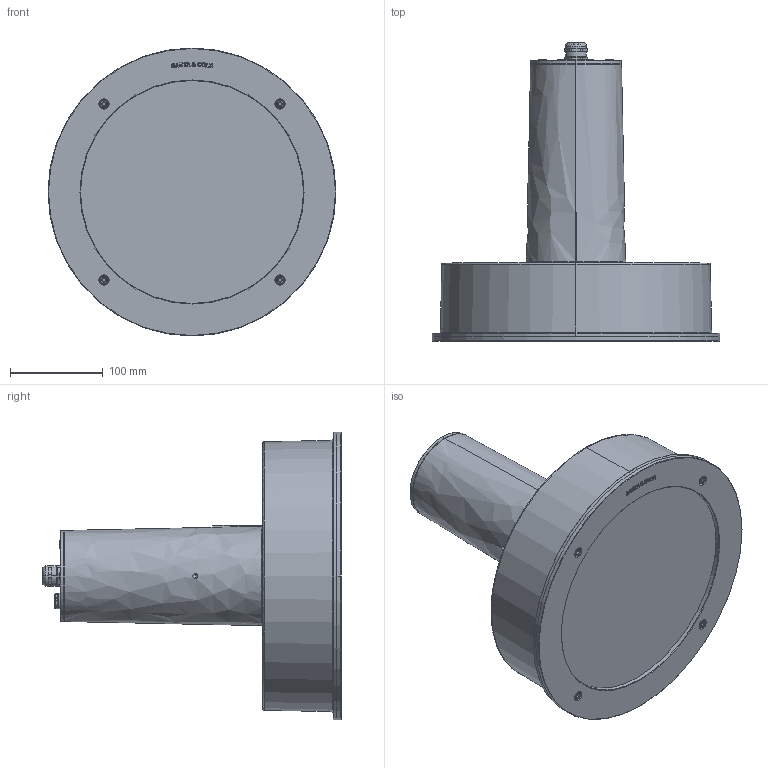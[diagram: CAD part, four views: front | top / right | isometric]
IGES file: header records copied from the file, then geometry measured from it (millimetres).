
Start section: SolidWorks IGES file using analytic representation for surfaces
Global section: file name: C:\Users\jordi.munoz\Desktop\ARNE\IGES WEB\Arne.IGS; native system: SolidWorks 2013; preprocessor: SolidWorks 2013; author: jordi.munoz; date: 150320.120008; units: millimetre
Bounding box: 310 x 321.79 x 310 mm (x, y, z)
Volume: 1377537.4 mm3; surface area: 661907.6 mm2
Topology: 20 solids, 20 shells, 1490 faces, 3530 edges, 2155 vertices
Faces by surface type: revolution 724, plane 517, bspline 249
